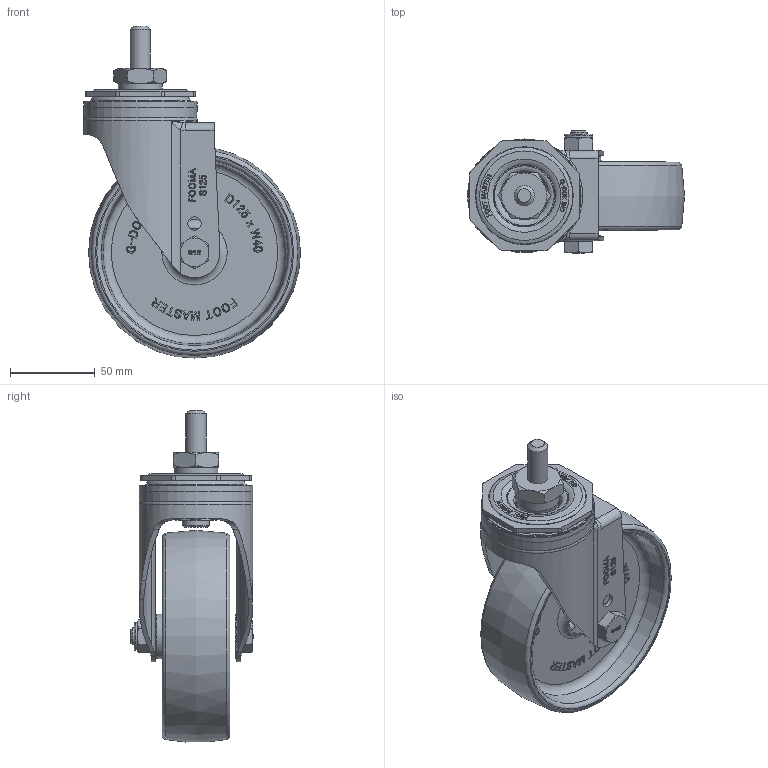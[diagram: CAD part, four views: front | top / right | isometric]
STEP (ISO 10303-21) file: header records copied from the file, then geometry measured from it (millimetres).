
FILE_DESCRIPTION(/* description */ (''),/* implementation_level */ '2;1');
FILE_NAME(/* name */ '\\192.168.10.38\지덕공유\1.기술연구소\2.연구개발 완료\완료_98.스테인레스캐스터 개발건_2023.10.26\제품설계\3D\홈페이지용\NYP\STP\SPLM-125-ASS-NYP-PM12.stp',/* time_stamp */ '2025-07-17T17:53:58+09:00',/* author */ ('admin'),/* organization */ ('지덕산업'),/* preprocessor_version */ 'ST-DEVELOPER v18.1',/* originating_system */ 'Autodesk Inventor 2021',/* authorisation */ '');
FILE_SCHEMA (('CONFIG_CONTROL_DESIGN'));
Length unit declared in the file: millimetre
Products named in the file (1): SPLM-125-ASS-NYP-PM12
Bounding box: 128 x 72.3 x 195.82 mm (x, y, z)
Volume: 320648.1 mm3; surface area: 89699.1 mm2
Topology: 1 solids, 1 shells, 1359 faces, 3701 edges, 2449 vertices
Faces by surface type: plane 696, bspline 462, cylinder 95, cone 73, torus 33
Full cylindrical faces by diameter (mm): 8 x2, 10 x1, 11 x1, 12 x1, 16 x2, 16.5 x1, 25.8 x1, 54 x1, 64 x1, 67 x1
Entity records: 43977 total; most frequent: CARTESIAN_POINT 12894, ORIENTED_EDGE 7398, DIRECTION 4738, EDGE_CURVE 3699, VERTEX_POINT 2449, LINE 2230, VECTOR 2230, EDGE_LOOP 1472
